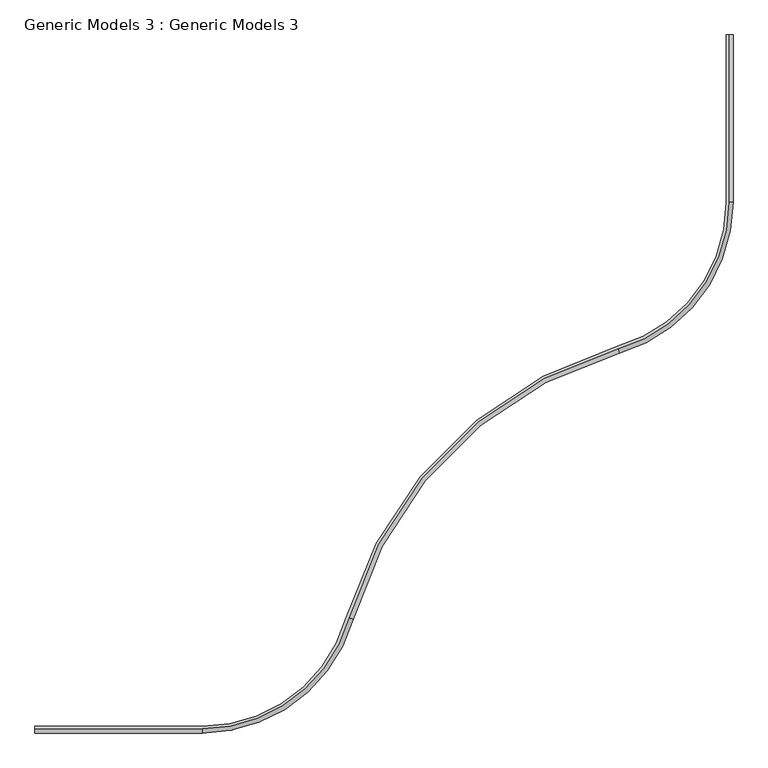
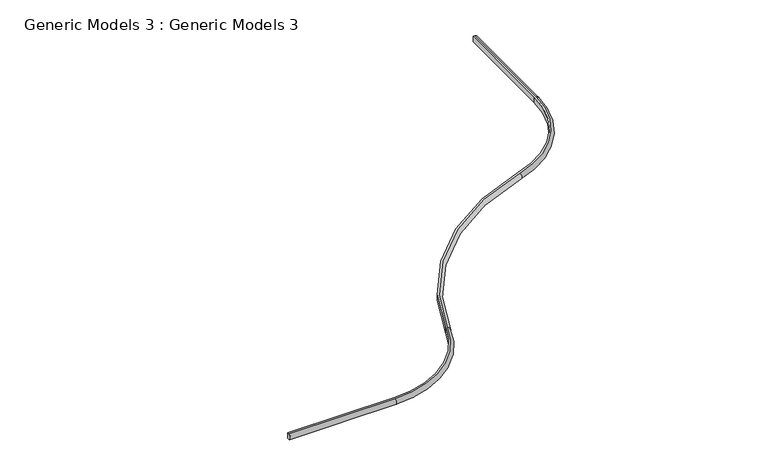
"""IFC4 building model written with IfcOpenShell, lengths in millimetres: proxy geometry, Generic Models 3 : Generic Models 3."""

from ifc_helpers import new_model, si_unit, point, frame, origin, place, context, project, spatial, polyline, circle_curve, ellipse_curve, trimmed, source, transform, mapped, element, save
from ifc_brep_helpers import plane_surface, cylinder_surface, revolved_surface, advanced_brep


def generic_models_3_generic_models_3_668906b7(model_context):
    return source(origin(), model_context, "Body", "AdvancedBrep", [
        advanced_brep(
        [(-10262.8976545, 6335.1684151, 714.3875), (-10262.8976545, 6343.0684151, 714.3875), (-10262.8976545, 6343.0684151, 685.7875), (-10262.8976545, 6335.1684151, 685.7875), (-9725.243048, 6335.1684151, 714.3875), (-9253.7055235, 6690.6031977, 714.3875), (-8387.9324371, 7556.3762841, 714.3875), (-8032.4976545, 8027.9138086, 714.3875), (-8032.4976545, 8565.5684151, 714.3875), (-8040.3976545, 8565.5684151, 714.3875), (-8040.3976545, 8027.9138086, 714.3875), (-8390.1077995, 7563.9708742, 714.3875), (-9261.3001136, 6692.77856, 714.3875), (-9725.243048, 6343.0684151, 714.3875), (-9725.243048, 6343.0684151, 685.7875), (-9261.3001136, 6692.77856, 685.7875), (-8390.1077995, 7563.9708742, 685.7875), (-8040.3976545, 8027.9138086, 685.7875), (-8040.3976545, 8565.5684151, 685.7875), (-8032.4976545, 8565.5684151, 685.7875), (-8032.4976545, 8027.9138086, 685.7875), (-8387.9324371, 7556.3762841, 685.7875), (-9253.7055235, 6690.6031977, 685.7875), (-9725.243048, 6335.1684151, 685.7875)],
        [
            (0, 1),
            (1, 2),
            (2, 3),
            (3, 0, circle_curve(frame((-10262.8976545, 6335.1684151, 700.0875), z_axis=(-1.0, 0.0, 0.0), x_axis=(0.0, 1.0, 0.0)), 14.3)),
            (0, 4),
            (4, 5, circle_curve(frame((-9725.243048, 6825.6684151, 714.3875), z_axis=(0.0, 0.0, 1.0), x_axis=(0.0, -1.0, 0.0)), 490.5)),
            (5, 6, circle_curve(frame((-8040.3976545, 6343.0684151, 714.3875), z_axis=(0.0, 0.0, -1.0), x_axis=(-0.9613405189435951, 0.2753623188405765, 0.0)), 1262.1)),
            (6, 7, circle_curve(frame((-8522.9976545, 8027.9138086, 714.3875), z_axis=(0.0, 0.0, 1.0), x_axis=(0.27536231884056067, -0.9613405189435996, 0.0)), 490.5)),
            (7, 8),
            (8, 9),
            (9, 10),
            (10, 11, circle_curve(frame((-8522.9976545, 8027.9138086, 714.3875), z_axis=(0.0, 0.0, -1.0), x_axis=(0.27536231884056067, -0.9613405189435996, 0.0)), 482.6)),
            (11, 12, circle_curve(frame((-8040.3976545, 6343.0684151, 714.3875), z_axis=(0.0, 0.0, 1.0), x_axis=(-0.9613405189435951, 0.2753623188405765, 0.0)), 1270.0)),
            (12, 13, circle_curve(frame((-9725.243048, 6825.6684151, 714.3875), z_axis=(0.0, 0.0, -1.0), x_axis=(0.0, -1.0, 0.0)), 482.6)),
            (13, 1),
            (13, 14),
            (14, 2),
            (14, 15, circle_curve(frame((-9725.243048, 6825.6684151, 685.7875), z_axis=(0.0, 0.0, 1.0), x_axis=(0.0, -1.0, 0.0)), 482.6)),
            (15, 16, circle_curve(frame((-8040.3976545, 6343.0684151, 685.7875), z_axis=(0.0, 0.0, -1.0), x_axis=(-0.9613405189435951, 0.2753623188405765, 0.0)), 1270.0)),
            (16, 17, circle_curve(frame((-8522.9976545, 8027.9138086, 685.7875), z_axis=(0.0, 0.0, 1.0), x_axis=(0.27536231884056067, -0.9613405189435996, 0.0)), 482.6)),
            (17, 18),
            (18, 19),
            (19, 20),
            (20, 21, circle_curve(frame((-8522.9976545, 8027.9138086, 685.7875), z_axis=(0.0, 0.0, -1.0), x_axis=(0.27536231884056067, -0.9613405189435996, 0.0)), 490.5)),
            (21, 22, circle_curve(frame((-8040.3976545, 6343.0684151, 685.7875), z_axis=(0.0, 0.0, 1.0), x_axis=(-0.9613405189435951, 0.2753623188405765, 0.0)), 1262.1)),
            (22, 23, circle_curve(frame((-9725.243048, 6825.6684151, 685.7875), z_axis=(0.0, 0.0, -1.0), x_axis=(0.0, -1.0, 0.0)), 490.5)),
            (23, 3),
            (23, 4, circle_curve(frame((-9725.243048, 6335.1684151, 700.0875), z_axis=(-1.0, 0.0, 0.0), x_axis=(0.0, 1.0, 0.0)), 14.3)),
            (12, 15),
            (22, 5, circle_curve(frame((-9253.7055235, 6690.6031977, 700.0875), z_axis=(-0.2753623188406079, -0.9613405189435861, 0.0), x_axis=(-0.9613405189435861, 0.2753623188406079, 0.0)), 14.3)),
            (11, 16),
            (21, 6, circle_curve(frame((-8387.9324371, 7556.3762841, 700.0875), z_axis=(-0.9613405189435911, -0.27536231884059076, 0.0), x_axis=(-0.27536231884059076, 0.9613405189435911, 0.0)), 14.3)),
            (10, 17),
            (20, 7, circle_curve(frame((-8032.4976545, 8027.9138086, 700.0875), z_axis=(0.0, -1.0, 0.0), x_axis=(-1.0, 0.0, 0.0)), 14.3)),
            (8, 19, circle_curve(frame((-8032.4976545, 8565.5684151, 700.0875), z_axis=(0.0, 1.0, 0.0), x_axis=(-1.0, 0.0, 0.0)), 14.3)),
            (18, 9),
        ],
        [
            plane_surface(frame((-10262.8976545, 6343.0684151, 0.0), z_axis=(-1.0, 0.0, 0.0), x_axis=(0.0, 0.0, 1.0))),
            plane_surface(frame((-10262.8976545, 6335.1684151, 714.3875), z_axis=(0.0, 0.0, 1.0), x_axis=(1.0, 0.0, 0.0))),
            plane_surface(frame((-10262.8976545, 6343.0684151, 714.3875), z_axis=(0.0, 1.0, 0.0), x_axis=(1.0, 0.0, 0.0))),
            plane_surface(frame((-10262.8976545, 6343.0684151, 685.7875), z_axis=(0.0, 0.0, -1.0), x_axis=(1.0, 0.0, 0.0))),
            cylinder_surface(frame((-10262.8976545, 6335.1684151, 700.0875), z_axis=(-1.0, 0.0, 0.0), x_axis=(0.0, 1.0, 0.0)), 14.3),
            revolved_surface(polyline([(-9725.243048, 6343.0684151, 714.3875), (-9725.243048, 6343.0684151, 685.7875)]), (-9725.243048, 6825.6684151, 0.0), (0.0, 0.0, 1.0)),
            revolved_surface(trimmed(ellipse_curve(frame((-9725.243048, 6335.1684151, 700.0875), z_axis=(-1.0, 0.0, 0.0), x_axis=(0.0, 1.0, 0.0)), 14.3, 14.3), [point((-9725.243048, 6335.1684151, 685.7875))], [point((-9725.243048, 6335.1684151, 714.3875))], True, "CARTESIAN"), (-9725.243048, 6825.6684151, 0.0), (0.0, 0.0, 1.0)),
            cylinder_surface(frame((-8040.3976545, 6343.0684151, 0.0), z_axis=(0.0, 0.0, -1.0), x_axis=(-0.9613405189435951, 0.2753623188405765, 0.0)), 1270.0),
            revolved_surface(trimmed(ellipse_curve(frame((-9253.7055235, 6690.6031977, 700.0875), z_axis=(-0.2753623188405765, -0.9613405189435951, 0.0), x_axis=(-0.9613405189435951, 0.2753623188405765, 0.0)), 14.3, 14.3), [point((-9253.7055235, 6690.6031977, 685.7875))], [point((-9253.7055235, 6690.6031977, 714.3875))], True, "CARTESIAN"), (-8040.3976545, 6343.0684151, 0.0), (0.0, 0.0, -1.0)),
            revolved_surface(polyline([(-8390.107799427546, 7563.970874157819, 714.3875), (-8390.107799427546, 7563.970874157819, 685.7875)]), (-8522.9976545, 8027.9138086, 0.0), (0.0, 0.0, 1.0)),
            revolved_surface(trimmed(ellipse_curve(frame((-8387.9324371, 7556.3762841, 700.0875), z_axis=(-0.9613405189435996, -0.2753623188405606, 0.0), x_axis=(-0.2753623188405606, 0.9613405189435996, 0.0)), 14.3, 14.3), [point((-8387.9324371, 7556.3762841, 685.7875))], [point((-8387.9324371, 7556.3762841, 714.3875))], True, "CARTESIAN"), (-8522.9976545, 8027.9138086, 0.0), (0.0, 0.0, 1.0)),
            plane_surface(frame((-8040.3976545, 8565.5684151, 0.0), z_axis=(0.0, 1.0, 0.0), x_axis=(0.0, 0.0, 1.0))),
            plane_surface(frame((-8040.3976545, 8027.9138086, 714.3875), z_axis=(-1.0, 0.0, 0.0), x_axis=(0.0, 1.0, 0.0))),
            cylinder_surface(frame((-8032.4976545, 8027.9138086, 700.0875), z_axis=(0.0, -1.0, 0.0), x_axis=(-1.0, 0.0, 0.0)), 14.3),
        ],
        [
            (0, [[1, 2, 3, 4]]),
            (1, [[-1, 5, 6, 7, 8, 9, 10, 11, 12, 13, 14, 15]]),
            (2, [[-2, -15, 16, 17]]),
            (3, [[-3, -17, 18, 19, 20, 21, 22, 23, 24, 25, 26, 27]]),
            (4, [[-4, -27, 28, -5]]),
            (5, [[-18, -16, -14, 29]]),
            (6, [[-6, -28, -26, 30]]),
            (7, [[-19, -29, -13, 31]]),
            (8, [[-7, -30, -25, 32]]),
            (9, [[-20, -31, -12, 33]]),
            (10, [[-8, -32, -24, 34]]),
            (11, [[35, -22, 36, -10]]),
            (12, [[-33, -11, -36, -21]]),
            (13, [[-34, -23, -35, -9]]),
        ],
    ),
    ])


if __name__ == "__main__":
    model = new_model("IFC4")
    model_context = context("Model", 3, world=origin())
    ifc_project = project(units=[si_unit("LENGTHUNIT", "METRE", prefix="MILLI")], contexts=[model_context])
    site = spatial("IfcSite", under=ifc_project)
    building = spatial("IfcBuilding", under=site)
    placement = place(None, origin())
    generic_models_3_generic_models_3_shape = generic_models_3_generic_models_3_668906b7(model_context)
    element("IfcBuildingElementProxy", 1, Name="Generic Models 3 : Generic Models 3", ObjectType="Generic Models 3 : Generic Models 3", at=placement, inside=building, context=model_context, shape_type="MappedRepresentation", body=[
        mapped(generic_models_3_generic_models_3_shape, transform((0.0, 0.0, 0.0), x_axis=(1.0, 0.0, 0.0), y_axis=(0.0, 1.0, 0.0), z_axis=(0.0, 0.0, 1.0))),
    ])
    save(model, "model.ifc")
